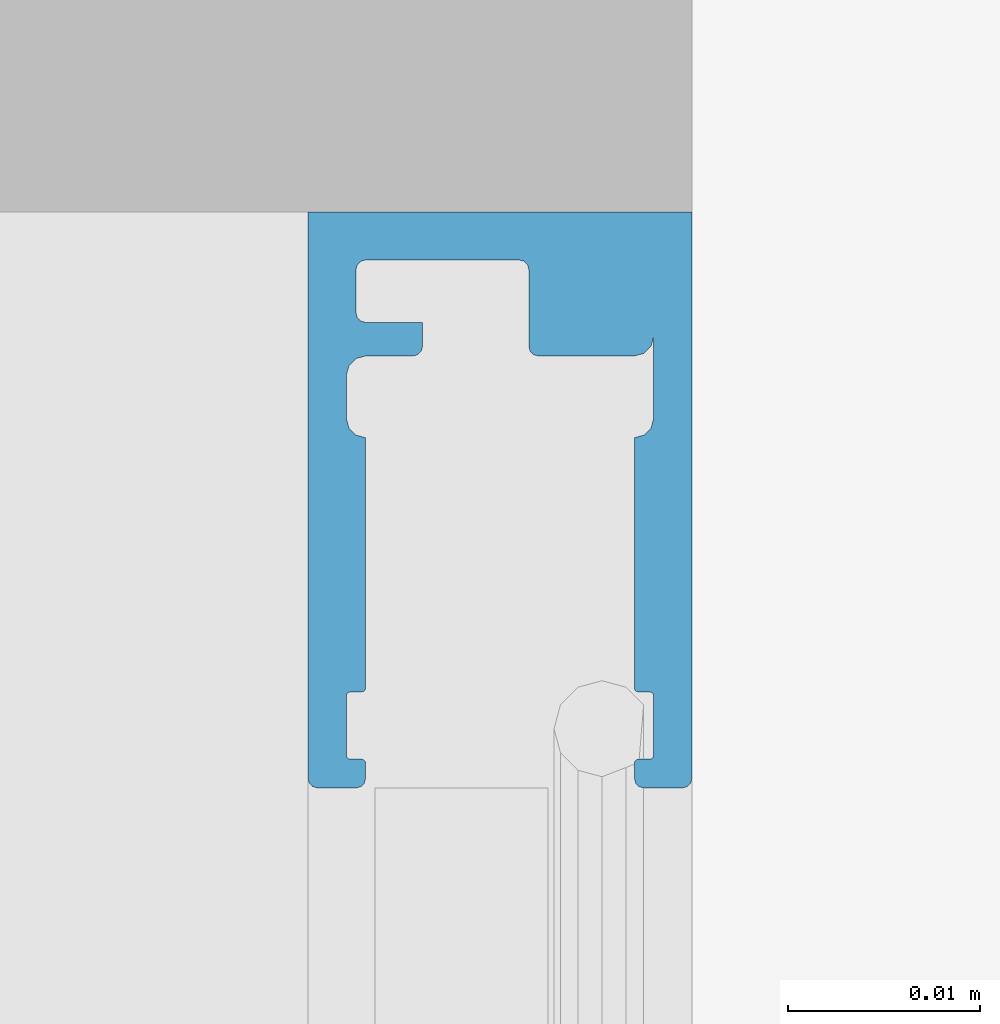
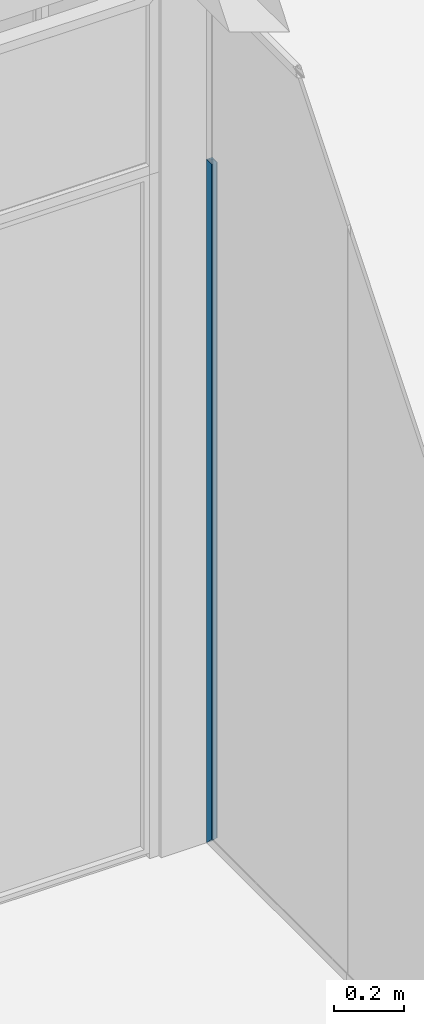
# One storey, part 66 of 387: 1 building element part, 2 elements without a shape of their own.
"""IFC2X3 building model written with IfcOpenShell, lengths in millimetres."""

from ifc_helpers import new_model, entity, si_unit, converted_unit, derived_unit, money_unit, direction, frame, origin_with_axes, place, context, subcontext, project, spatial, faceted_brep, source, transform, mapped, material, type_object, element, aggregate, save


model = new_model("IFC2X3")

# Units and contexts
model_context = context("Model", 3, precision=0.01, world=origin_with_axes(), true_north=direction((0.0, 1.0)))
body_context = subcontext(model_context, "Body", "Model", "MODEL_VIEW")
ifc_project = project(units=[si_unit("LENGTHUNIT", "METRE", prefix="MILLI"), si_unit("AREAUNIT", "SQUARE_METRE"), si_unit("VOLUMEUNIT", "CUBIC_METRE"), converted_unit("PLANEANGLEUNIT", "DEGREE", entity("IfcPlaneAngleMeasure", 0.0174532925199), si_unit("PLANEANGLEUNIT", "RADIAN"), dimensions=[0, 0, 0, 0, 0, 0, 0]), si_unit("SOLIDANGLEUNIT", "STERADIAN"), money_unit("EUR"), converted_unit("TIMEUNIT", "Year", entity("IfcTimeMeasure", 31556926.0), si_unit("TIMEUNIT", "SECOND"), dimensions=[0, 0, 1, 0, 0, 0, 0]), si_unit("MASSUNIT", "GRAM", prefix="KILO"), si_unit("THERMODYNAMICTEMPERATUREUNIT", "DEGREE_CELSIUS"), si_unit("LUMINOUSINTENSITYUNIT", "LUMEN"), si_unit("ENERGYUNIT", "JOULE", prefix="MEGA"), derived_unit("THERMALCONDUCTANCEUNIT", [(si_unit("POWERUNIT", "WATT"), 1), (si_unit("LENGTHUNIT", "METRE"), -1), (si_unit("THERMODYNAMICTEMPERATUREUNIT", "KELVIN"), -1)]), derived_unit("SPECIFICHEATCAPACITYUNIT", [(si_unit("ENERGYUNIT", "JOULE"), 1), (si_unit("MASSUNIT", "GRAM", prefix="KILO"), -1), (si_unit("THERMODYNAMICTEMPERATUREUNIT", "KELVIN"), -1)]), derived_unit("MASSDENSITYUNIT", [(si_unit("MASSUNIT", "GRAM", prefix="KILO"), 1), (si_unit("VOLUMEUNIT", "CUBIC_METRE"), -1)])], contexts=[model_context])

# Site, building, storey
site_placement = place(None, origin_with_axes())
site = spatial("IfcSite", under=ifc_project, at=site_placement, Name="Puškini 31, Narva", CompositionType="ELEMENT")
building_placement = place(site_placement, origin_with_axes())
building = spatial("IfcBuilding", under=site, at=building_placement, Name="Narva Riigigümnaasium", CompositionType="ELEMENT")
storey_placement = place(building_placement, frame((0.0, 0.0, 2640.0), z_axis=(0.0, 0.0, 1.0), x_axis=(1.0, 0.0, 0.0)))
storey = spatial("IfcBuildingStorey", under=building, at=storey_placement, Name="2.korrus +2.64", CompositionType="ELEMENT", Elevation=2640.0)

# Curtain wall, member, building element part
curtain_wall_type = type_object("IfcCurtainWallType", Name="Curtain Wall Type", PredefinedType="NOTDEFINED")
curtain_wall_placement = place(storey_placement, frame((28390.0000002, 176724.161139, -5.42380846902e-05), z_axis=(0.0, 0.0, 1.0), x_axis=(1.0, 0.0, 0.0)))
curtain_wall = element("IfcCurtainWall", 1, at=curtain_wall_placement, inside=storey, type_object=curtain_wall_type, Name="G-SKLF-12")
member_type = type_object("IfcMemberType", Name="30 x 10", PredefinedType="MULLION")
member_placement = place(curtain_wall_placement, frame((-3.4056313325e-08, 2205.81089237, 0.0), z_axis=(0.0, 0.0, 1.0), x_axis=(0.0, 1.0, 0.0)))
member = element("IfcMember", 2, at=member_placement, type_object=member_type, Name="G-SKLF-12-raam", ObjectType="MULLION")
aggregate(curtain_wall, [member])
ifc_material = material(Name="ET-04_Alumiinium")
shared_shape = source(origin_with_axes(), body_context, "Body", "Brep", [
    faceted_brep([(0.0, -9.99999999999, 0.0), (0.0, -9.99999999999, 2400.00000922), (0.0, 9.99999999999, 2400.00000922), (0.0, 9.99999999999, 0.0), (29.4424074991, -9.99999999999, 29.4424074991), (29.4424074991, -9.99999999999, 2400.00000922), (29.7157683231, -9.95182408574, 2400.00000922), (29.9224245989, -9.76651288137, 2400.00000922), (30.0, -9.5, 2400.00000922), (30.0, -7.49999999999, 2400.00000922), (29.9330127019, -7.24999999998, 2400.00000922), (29.75, -7.06698729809, 2400.00000922), (29.5, -6.99999999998, 2400.00000922), (28.7, -6.99999999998, 2400.00000922), (28.6, -7.02679491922, 2400.00000922), (28.5267949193, -7.09999999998, 2400.00000922), (28.5, -7.19999999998, 2400.00000922), (28.5, -7.79999999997, 2400.00000922), (28.4732050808, -7.89999999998, 2400.00000922), (28.4, -7.97320508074, 2400.00000922), (28.3, -7.99999999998, 2400.00000922), (25.2, -7.99999999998, 2400.00000922), (25.1, -7.97320508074, 2400.00000922), (25.0267949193, -7.89999999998, 2400.00000922), (25.0, -7.79999999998, 2400.00000922), (25.0, -7.20000000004, 2400.00000922), (24.9732050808, -7.10000000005, 2400.00000922), (24.9, -7.02679491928, 2400.00000922), (24.8, -7.00000000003, 2400.00000922), (11.7527616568, -6.99999999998, 2400.00000922), (11.6187870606, -7.49999999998, 2400.00000922), (11.2527616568, -7.86602540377, 2400.00000922), (10.7527616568, -7.99999999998, 2400.00000922), (8.49999999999, -8.00000000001, 2400.00000922), (7.99999999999, -7.86602540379, 2400.00000922), (7.63397459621, -7.50000000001, 2400.00000922), (7.49999999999, -7.00000000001, 2400.00000922), (7.49999999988, -4.5336921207, 2400.00000922), (7.43301270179, -4.28369212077, 2400.00000922), (7.24999999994, -4.10067941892, 2400.00000922), (7.0, -4.03369212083, 2400.00000922), (5.74723834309, -4.03369212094, 2400.00000922), (5.7472383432, -6.99999999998, 2400.00000922), (5.6802510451, -7.24999999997, 2400.00000922), (5.49723834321, -7.43301270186, 2400.00000922), (5.24723834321, -7.49999999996, 2400.00000922), (3.0, -7.49999999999, 2400.00000922), (2.75, -7.43301270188, 2400.00000922), (2.56698729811, -7.24999999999, 2400.00000922), (2.5, -6.99999999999, 2400.00000922), (2.5, 1.00339466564, 2400.00000922), (2.56811176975, 1.25195735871, 2400.00000922), (2.75096907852, 1.43357737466, 2400.00000922), (2.99998847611, 1.50000000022, 2400.00000922), (6.99999999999, 1.50000000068, 2400.00000922), (7.24999999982, 1.56698729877, 2400.00000922), (7.43301270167, 1.75000000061, 2400.00000922), (7.49999999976, 2.00000000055, 2400.00000922), (7.49999999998, 6.99999999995, 2400.00000922), (7.36602540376, 7.49999999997, 2400.00000922), (6.99999999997, 7.86602540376, 2400.00000922), (6.49999999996, 7.99999999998, 2400.00000922), (10.7527616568, 7.99999999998, 2400.00000922), (11.2527616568, 7.86602540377, 2400.00000922), (11.6187870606, 7.49999999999, 2400.00000922), (11.7527616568, 6.99999999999, 2400.00000922), (24.8, 7.00000000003, 2400.00000922), (24.9, 7.02679491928, 2400.00000922), (24.9732050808, 7.10000000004, 2400.00000922), (25.0, 7.20000000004, 2400.00000922), (25.0, 7.8, 2400.00000922), (25.0267949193, 7.90000000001, 2400.00000922), (25.1, 7.97320508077, 2400.00000922), (25.2, 8.00000000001, 2400.00000922), (28.3, 8.00000000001, 2400.00000922), (28.4104265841, 7.9658128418, 2400.00000922), (28.4849473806, 7.87744178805, 2400.00000922), (28.5, 7.76282847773, 2400.00000922), (28.5, 7.24760028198, 2400.00000922), (28.5, 7.19999999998, 2400.00000922), (28.5267949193, 7.09999999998, 2400.00000922), (28.6, 7.02679491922, 2400.00000922), (28.7, 6.99999999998, 2400.00000922), (28.7609519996, 6.99999999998, 2400.00000922), (29.5, 7.00000000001, 2400.00000922), (29.75, 7.06698729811, 2400.00000922), (29.9330127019, 7.24999999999, 2400.00000922), (30.0, 7.49999999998, 2400.00000922), (30.0, 9.5, 2400.00000922), (29.9330127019, 9.75000000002, 2400.00000922), (29.75, 9.93301270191, 2400.00000922), (29.5, 10.0, 2400.00000922), (29.5, 10.0, 29.5), (29.75, 9.93301270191, 29.75), (29.9330127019, 9.75000000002, 29.9330127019), (30.0, 9.5, 30.0), (30.0, 7.49999999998, 30.0), (29.9330127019, 7.24999999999, 29.9330127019), (29.75, 7.06698729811, 29.75), (29.5, 7.00000000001, 29.5), (28.7609519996, 6.99999999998, 28.7609519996), (28.7, 6.99999999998, 28.7), (28.6, 7.02679491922, 28.6), (28.5267949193, 7.09999999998, 28.5267949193), (28.5, 7.19999999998, 28.5), (28.5, 7.24760028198, 28.5), (28.5, 7.76282847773, 28.5), (28.4849473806, 7.87744178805, 28.4849473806), (28.4104265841, 7.9658128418, 28.4104265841), (28.3, 8.00000000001, 28.3), (25.2, 8.00000000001, 25.2), (25.1, 7.97320508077, 25.1), (25.0267949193, 7.90000000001, 25.0267949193), (25.0, 7.8, 25.0), (25.0, 7.20000000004, 25.0), (24.9732050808, 7.10000000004, 24.9732050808), (24.9, 7.02679491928, 24.9), (24.8, 7.00000000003, 24.8), (11.7527616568, 6.99999999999, 11.7527616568), (11.6187870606, 7.49999999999, 11.6187870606), (11.2527616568, 7.86602540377, 11.2527616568), (10.7527616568, 7.99999999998, 10.7527616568), (6.49999999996, 7.99999999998, 6.49999999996), (6.99999999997, 7.86602540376, 6.99999999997), (7.36602540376, 7.49999999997, 7.36602540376), (7.49999999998, 6.99999999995, 7.49999999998), (7.49999999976, 2.00000000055, 7.49999999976), (7.43301270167, 1.75000000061, 7.43301270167), (7.24999999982, 1.56698729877, 7.24999999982), (6.99999999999, 1.50000000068, 6.99999999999), (2.99998847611, 1.50000000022, 2.99998847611), (2.75096907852, 1.43357737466, 2.75096907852), (2.56811176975, 1.25195735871, 2.56811176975), (2.5, 1.00339466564, 2.5), (2.5, -6.99999999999, 2.5), (2.56698729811, -7.24999999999, 2.56698729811), (2.75, -7.43301270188, 2.75), (3.0, -7.49999999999, 3.0), (5.24723834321, -7.49999999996, 5.24723834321), (5.49723834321, -7.43301270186, 5.49723834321), (5.6802510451, -7.24999999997, 5.6802510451), (5.7472383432, -6.99999999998, 5.7472383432), (5.74723834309, -4.03369212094, 5.74723834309), (7.0, -4.03369212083, 7.0), (7.24999999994, -4.10067941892, 7.24999999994), (7.43301270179, -4.28369212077, 7.43301270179), (7.49999999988, -4.5336921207, 7.49999999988), (7.49999999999, -7.00000000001, 7.49999999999), (7.63397459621, -7.50000000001, 7.63397459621), (7.99999999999, -7.86602540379, 7.99999999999), (8.49999999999, -8.00000000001, 8.49999999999), (10.7527616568, -7.99999999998, 10.7527616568), (11.2527616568, -7.86602540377, 11.2527616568), (11.6187870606, -7.49999999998, 11.6187870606), (11.7527616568, -6.99999999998, 11.7527616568), (24.8, -7.00000000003, 24.8), (24.9, -7.02679491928, 24.9), (24.9732050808, -7.10000000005, 24.9732050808), (25.0, -7.20000000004, 25.0), (25.0, -7.79999999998, 25.0), (25.0267949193, -7.89999999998, 25.0267949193), (25.1, -7.97320508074, 25.1), (25.2, -7.99999999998, 25.2), (28.3, -7.99999999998, 28.3), (28.4, -7.97320508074, 28.4), (28.4732050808, -7.89999999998, 28.4732050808), (28.5, -7.79999999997, 28.5), (28.5, -7.19999999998, 28.5), (28.5267949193, -7.09999999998, 28.5267949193), (28.6, -7.02679491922, 28.6), (28.7, -6.99999999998, 28.7), (29.5, -6.99999999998, 29.5), (29.75, -7.06698729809, 29.75), (29.9330127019, -7.24999999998, 29.9330127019), (30.0, -7.49999999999, 30.0), (30.0, -9.5, 30.0), (29.9224245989, -9.76651288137, 29.9224245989), (29.7157683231, -9.95182408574, 29.7157683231)], [[[0, 1, 2, 3]], [[4, 5, 1, 0]], [[2, 1, 5, 6, 7, 8, 9, 10, 11, 12, 13, 14, 15, 16, 17, 18, 19, 20, 21, 22, 23, 24, 25, 26, 27, 28, 29, 30, 31, 32, 33, 34, 35, 36, 37, 38, 39, 40, 41, 42, 43, 44, 45, 46, 47, 48, 49, 50, 51, 52, 53, 54, 55, 56, 57, 58, 59, 60, 61, 62, 63, 64, 65, 66, 67, 68, 69, 70, 71, 72, 73, 74, 75, 76, 77, 78, 79, 80, 81, 82, 83, 84, 85, 86, 87, 88, 89, 90, 91]], [[3, 2, 91, 92]], [[3, 92, 93, 94, 95, 96, 97, 98, 99, 100, 101, 102, 103, 104, 105, 106, 107, 108, 109, 110, 111, 112, 113, 114, 115, 116, 117, 118, 119, 120, 121, 122, 123, 124, 125, 126, 127, 128, 129, 130, 131, 132, 133, 134, 135, 136, 137, 138, 139, 140, 141, 142, 143, 144, 145, 146, 147, 148, 149, 150, 151, 152, 153, 154, 155, 156, 157, 158, 159, 160, 161, 162, 163, 164, 165, 166, 167, 168, 169, 170, 171, 172, 173, 174, 175, 176, 177, 4, 0]], [[177, 6, 5, 4]], [[176, 7, 6, 177]], [[175, 8, 7, 176]], [[174, 9, 8, 175]], [[173, 10, 9, 174]], [[172, 11, 10, 173]], [[171, 12, 11, 172]], [[170, 13, 12, 171]], [[169, 14, 13, 170]], [[168, 15, 14, 169]], [[167, 16, 15, 168]], [[166, 17, 16, 167]], [[165, 18, 17, 166]], [[164, 19, 18, 165]], [[163, 20, 19, 164]], [[162, 21, 20, 163]], [[161, 22, 21, 162]], [[160, 23, 22, 161]], [[159, 24, 23, 160]], [[158, 25, 24, 159]], [[157, 26, 25, 158]], [[156, 27, 26, 157]], [[155, 28, 27, 156]], [[154, 29, 28, 155]], [[153, 30, 29, 154]], [[152, 31, 30, 153]], [[151, 32, 31, 152]], [[150, 33, 32, 151]], [[149, 34, 33, 150]], [[148, 35, 34, 149]], [[147, 36, 35, 148]], [[146, 37, 36, 147]], [[145, 38, 37, 146]], [[144, 39, 38, 145]], [[143, 40, 39, 144]], [[142, 41, 40, 143]], [[141, 42, 41, 142]], [[140, 43, 42, 141]], [[139, 44, 43, 140]], [[138, 45, 44, 139]], [[137, 46, 45, 138]], [[136, 47, 46, 137]], [[135, 48, 47, 136]], [[134, 49, 48, 135]], [[133, 50, 49, 134]], [[132, 51, 50, 133]], [[131, 52, 51, 132]], [[130, 53, 52, 131]], [[129, 54, 53, 130]], [[128, 55, 54, 129]], [[127, 56, 55, 128]], [[126, 57, 56, 127]], [[125, 58, 57, 126]], [[124, 59, 58, 125]], [[123, 60, 59, 124]], [[122, 61, 60, 123]], [[121, 62, 61, 122]], [[120, 63, 62, 121]], [[119, 64, 63, 120]], [[118, 65, 64, 119]], [[117, 66, 65, 118]], [[116, 67, 66, 117]], [[115, 68, 67, 116]], [[114, 69, 68, 115]], [[113, 70, 69, 114]], [[112, 71, 70, 113]], [[111, 72, 71, 112]], [[110, 73, 72, 111]], [[109, 74, 73, 110]], [[108, 75, 74, 109]], [[107, 76, 75, 108]], [[106, 77, 76, 107]], [[105, 78, 77, 106]], [[104, 79, 78, 105]], [[103, 80, 79, 104]], [[102, 81, 80, 103]], [[101, 82, 81, 102]], [[100, 83, 82, 101]], [[99, 84, 83, 100]], [[98, 85, 84, 99]], [[97, 86, 85, 98]], [[96, 87, 86, 97]], [[95, 88, 87, 96]], [[94, 89, 88, 95]], [[93, 90, 89, 94]], [[92, 91, 90, 93]]]),
])
building_element_part_placement = place(member_placement, origin_with_axes())
building_element_part = element("IfcBuildingElementPart", 3, at=building_element_part_placement, material=ifc_material, Name="ET-04_Alumiinium", context=body_context, shape_type="MappedRepresentation", body=[
    mapped(shared_shape, transform((0.0, 0.0, 0.0), x_axis=(-1.0, 0.0, 0.0), y_axis=(0.0, -1.0, 0.0), z_axis=(0.0, 0.0, 1.0))),
])
aggregate(member, [building_element_part])

save(model, "model.ifc")
